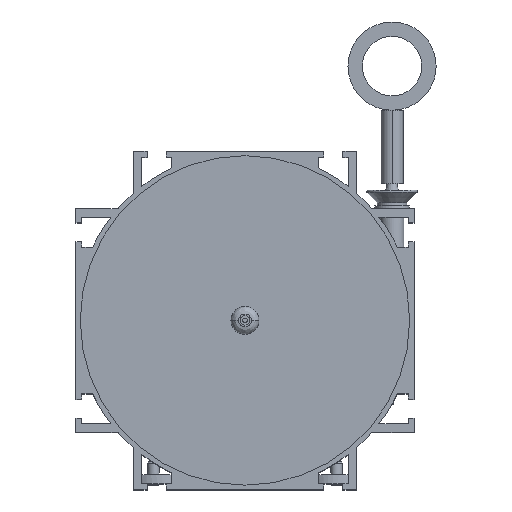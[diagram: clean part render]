
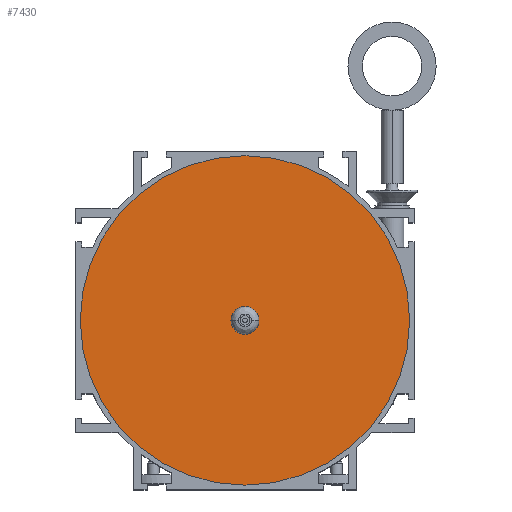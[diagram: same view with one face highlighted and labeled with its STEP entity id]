
A CAD part, top view. The second image highlights one B-rep face of the part: STEP entity #7430.
In plain terms, the highlighted planar face has unit normal (0, 0, 1).
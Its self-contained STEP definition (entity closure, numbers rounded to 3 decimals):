
#1899=CARTESIAN_POINT('',(0.,0.,82.5));
#1900=DIRECTION('',(0.,0.,1.));
#1901=DIRECTION('',(-1.,0.,0.));
#1902=AXIS2_PLACEMENT_3D('',#1899,#1900,#1901);
#1904=CARTESIAN_POINT('',(0.,0.,82.5));
#1905=DIRECTION('',(0.,0.,-1.));
#1906=DIRECTION('',(-1.,0.,0.));
#1907=AXIS2_PLACEMENT_3D('',#1904,#1905,#1906);
#1909=CARTESIAN_POINT('',(0.,0.,82.5));
#1910=DIRECTION('',(0.,0.,1.));
#1911=DIRECTION('',(-1.,0.,0.));
#1912=AXIS2_PLACEMENT_3D('',#1909,#1910,#1911);
#1914=CARTESIAN_POINT('',(0.,0.,82.5));
#1915=DIRECTION('',(0.,0.,1.));
#1916=DIRECTION('',(1.,0.,0.));
#1917=AXIS2_PLACEMENT_3D('',#1914,#1915,#1916);
#4421=CARTESIAN_POINT('',(-56.,0.,82.5));
#4422=CARTESIAN_POINT('',(56.,0.,82.5));
#4423=VERTEX_POINT('',#4421);
#4424=VERTEX_POINT('',#4422);
#4469=CARTESIAN_POINT('',(-4.75,0.,82.5));
#4470=CARTESIAN_POINT('',(4.75,0.,82.5));
#4471=VERTEX_POINT('',#4469);
#4472=VERTEX_POINT('',#4470);
#7415=CARTESIAN_POINT('',(0.,0.,82.5));
#7416=DIRECTION('',(0.,0.,-1.));
#7417=DIRECTION('',(1.,0.,0.));
#7418=AXIS2_PLACEMENT_3D('',#7415,#7416,#7417);
#7419=PLANE('',#7418);
#7420=ORIENTED_EDGE('',*,*,#7409,.F.);
#7421=ORIENTED_EDGE('',*,*,#7395,.T.);
#7422=EDGE_LOOP('',(#7420,#7421));
#7423=FACE_OUTER_BOUND('',#7422,.F.);
#7425=ORIENTED_EDGE('',*,*,#7424,.T.);
#7427=ORIENTED_EDGE('',*,*,#7426,.T.);
#7428=EDGE_LOOP('',(#7425,#7427));
#7429=FACE_BOUND('',#7428,.F.);
#1903=CIRCLE('',#1902,56.);
#1908=CIRCLE('',#1907,56.);
#1913=CIRCLE('',#1912,4.75);
#1918=CIRCLE('',#1917,4.75);
#7395=EDGE_CURVE('',#4423,#4424,#1908,.T.);
#7409=EDGE_CURVE('',#4423,#4424,#1903,.T.);
#7424=EDGE_CURVE('',#4471,#4472,#1913,.T.);
#7426=EDGE_CURVE('',#4472,#4471,#1918,.T.);
#7430=ADVANCED_FACE('',(#7423,#7429),#7419,.F.);
